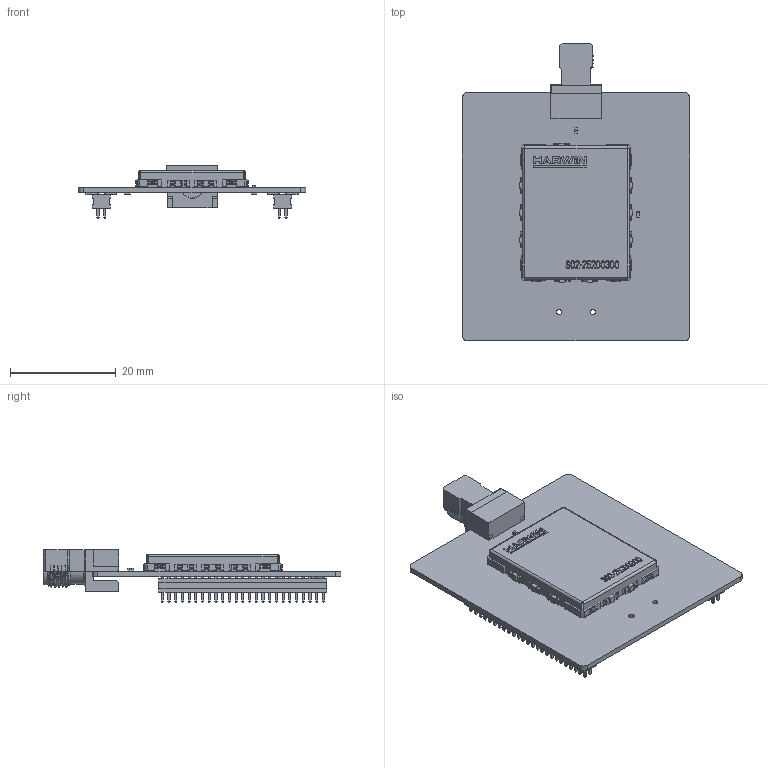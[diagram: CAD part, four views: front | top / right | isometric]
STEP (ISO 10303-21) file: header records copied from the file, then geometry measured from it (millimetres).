
FILE_DESCRIPTION(('Open CASCADE Model'),'2;1');
FILE_NAME('Open CASCADE Shape Model','2026-06-17T14:34:32',('Author'),( 'Open CASCADE'),'Open CASCADE STEP processor 7.5','Open CASCADE 7.5' ,'Unknown');
FILE_SCHEMA(('AUTOMOTIVE_DESIGN { 1 0 10303 214 1 1 1 1 }'));
Length unit declared in the file: millimetre
Products named in the file (113): PCB; Board; Open CASCADE STEP translator 7.5 1.1.1; L8; 8347427888; Extruded; L9; 8339980960; 8220249904; 9441424608; 9445372912; SB19; R0402; 8345340096; U1; QFN32-EPAD_5X5_P050; SB1; R0201; 8347428320; SC13; Shield clip s0951-46; 8345355216; SC12; 8347425056; SC11; SC10; SC9; SB15; SB14; HW1; S02-25200300; X1; 9441425376; 8220246688; 9445367008; X2; User Library-NX1612SA; 8347426544; 8347424672; SC7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
Assembly tree (158 placements, depth 4):
  PCB
    Board
      Open CASCADE STEP translator 7.5 1.1.1
    L8
      8347427888
        Extruded
    L9
      8339980960
        Extruded
      8220249904
        Extruded
      9441424608
        Extruded
      9445372912
        Extruded
    SB19
      R0402
      8345340096
        Extruded
    U1
      QFN32-EPAD_5X5_P050
    SB1
      R0201
      8347428320
        Extruded
    SC13
      Shield clip s0951-46
      8345355216
        Extruded
    SC12
      Shield clip s0951-46
      8347425056
        Extruded
    SC11
      Shield clip s0951-46
      8347425056
        Extruded
    SC10
      Shield clip s0951-46
      8347425056
        Extruded
    SC9
      Shield clip s0951-46
      8347425056
        Extruded
    SB15
      R0402
      8345340096
        Extruded
    SB14
      R0402
      8345340096
        Extruded
    HW1
      S02-25200300
    X1
      9441425376
        Extruded
      8220246688
        Extruded
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Bounding box: 43 x 56.35 x 9.92 mm (x, y, z)
Volume: 3792.9 mm3; surface area: 10256.5 mm2
Topology: 101 solids, 101 shells, 8635 faces, 21693 edges, 13120 vertices
Faces by surface type: plane 6065, cylinder 1585, bspline 597, sphere 326, torus 56, cone 6
Full cylindrical faces by diameter (mm): 0.991 x1, 1 x2, 4.674 x1, 5.08 x1, 5.385 x1
Entity records: 124461 total; most frequent: CARTESIAN_POINT 28373, ORIENTED_EDGE 17690, DIRECTION 16206, EDGE_CURVE 8845, LINE 7616, VECTOR 7616, VERTEX_POINT 5622, AXIS2_PLACEMENT_3D 4295
